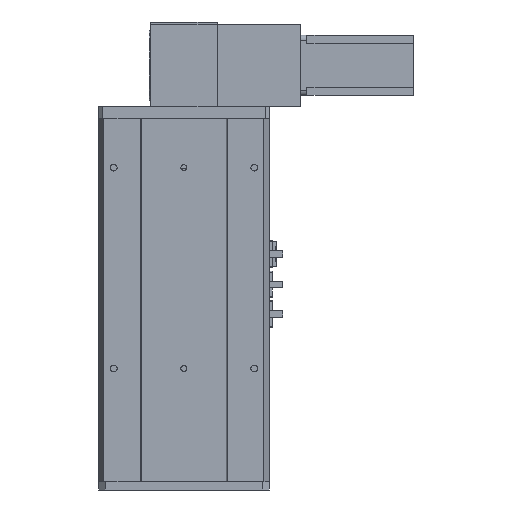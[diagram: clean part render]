
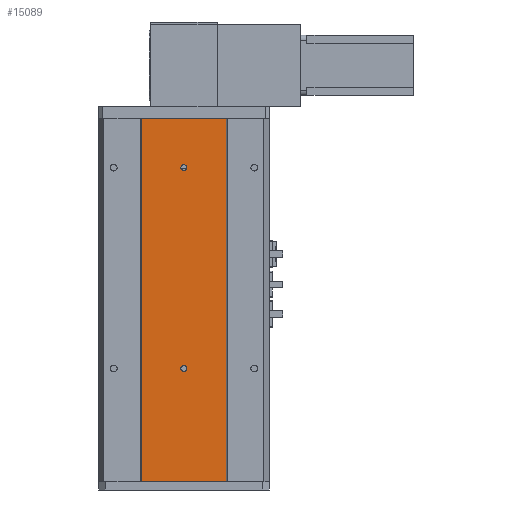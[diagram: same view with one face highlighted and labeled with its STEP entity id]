
A CAD part, front view. The second image highlights one B-rep face of the part: STEP entity #15089.
In plain terms, the highlighted planar face has unit normal (0, -1, 0).
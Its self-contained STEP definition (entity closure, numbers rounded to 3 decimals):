
#454 = CARTESIAN_POINT ( 'NONE',  ( 126.916, 2.57, 0. ) ) ;
#1677 = EDGE_CURVE ( 'NONE', #5716, #6644, #6830, .T. ) ;
#1688 = EDGE_CURVE ( 'NONE', #4887, #5716, #11807, .T. ) ;
#2448 = VERTEX_POINT ( 'NONE', #16442 ) ;
#2755 = CIRCLE ( 'NONE', #17395, 3. ) ;
#3605 = DIRECTION ( 'NONE',  ( 0., 0., 1. ) ) ;
#4160 = VECTOR ( 'NONE', #3605, 1000. ) ;
#4180 = VECTOR ( 'NONE', #27043, 1000. ) ;
#4317 = DIRECTION ( 'NONE',  ( 0., 1., 0. ) ) ;
#4545 = CARTESIAN_POINT ( 'NONE',  ( 42.916, 2.57, 0. ) ) ;
#4887 = VERTEX_POINT ( 'NONE', #454 ) ;
#5151 = FACE_BOUND ( 'NONE', #8867, .T. ) ;
#5716 = VERTEX_POINT ( 'NONE', #18201 ) ;
#5878 = CARTESIAN_POINT ( 'NONE',  ( 85., 2.57, 313. ) ) ;
#6168 = LINE ( 'NONE', #14080, #4160 ) ;
#6186 = VECTOR ( 'NONE', #6469, 1000. ) ;
#6445 = CARTESIAN_POINT ( 'NONE',  ( 126.916, 2.57, 362. ) ) ;
#6469 = DIRECTION ( 'NONE',  ( -1., 0., 0. ) ) ;
#6644 = VERTEX_POINT ( 'NONE', #20457 ) ;
#6752 = EDGE_LOOP ( 'NONE', ( #14697, #10793, #15969, #14674 ) ) ;
#6830 = LINE ( 'NONE', #12764, #22951 ) ;
#7963 = DIRECTION ( 'NONE',  ( 0., 0., 1. ) ) ;
#7965 = CARTESIAN_POINT ( 'NONE',  ( 85., 2.57, 110. ) ) ;
#8258 = VERTEX_POINT ( 'NONE', #6445 ) ;
#8324 = CARTESIAN_POINT ( 'NONE',  ( 42.916, 2.57, 0. ) ) ;
#8429 = DIRECTION ( 'NONE',  ( 0., 1., 0. ) ) ;
#8867 = EDGE_LOOP ( 'NONE', ( #10481, #17916 ) ) ;
#9797 = LINE ( 'NONE', #24988, #4180 ) ;
#10473 = EDGE_LOOP ( 'NONE', ( #18624, #12670 ) ) ;
#10481 = ORIENTED_EDGE ( 'NONE', *, *, #26865, .T. ) ;
#10646 = VERTEX_POINT ( 'NONE', #7965 ) ;
#10793 = ORIENTED_EDGE ( 'NONE', *, *, #1677, .F. ) ;
#11757 = CARTESIAN_POINT ( 'NONE',  ( 85., 2.57, 313. ) ) ;
#11807 = LINE ( 'NONE', #4545, #6186 ) ;
#12159 = VERTEX_POINT ( 'NONE', #16207 ) ;
#12521 = CARTESIAN_POINT ( 'NONE',  ( 85., 2.57, 113. ) ) ;
#12670 = ORIENTED_EDGE ( 'NONE', *, *, #24081, .T. ) ;
#12764 = CARTESIAN_POINT ( 'NONE',  ( 42.916, 2.57, 0. ) ) ;
#13183 = AXIS2_PLACEMENT_3D ( 'NONE', #5878, #20572, #7963 ) ;
#13621 = VERTEX_POINT ( 'NONE', #22660 ) ;
#13856 = DIRECTION ( 'NONE',  ( 0., 0., 1. ) ) ;
#13950 = CIRCLE ( 'NONE', #24311, 3. ) ;
#14080 = CARTESIAN_POINT ( 'NONE',  ( 126.916, 2.57, 0. ) ) ;
#14663 = DIRECTION ( 'NONE',  ( 0., 0., 1. ) ) ;
#14674 = ORIENTED_EDGE ( 'NONE', *, *, #14888, .T. ) ;
#14697 = ORIENTED_EDGE ( 'NONE', *, *, #27218, .T. ) ;
#14888 = EDGE_CURVE ( 'NONE', #4887, #8258, #6168, .T. ) ;
#15089 = ADVANCED_FACE ( 'NONE', ( #21923, #5151, #15734 ), #16859, .F. ) ;
#15734 = FACE_OUTER_BOUND ( 'NONE', #6752, .T. ) ;
#15786 = CIRCLE ( 'NONE', #16823, 3. ) ;
#15969 = ORIENTED_EDGE ( 'NONE', *, *, #1688, .F. ) ;
#16034 = EDGE_CURVE ( 'NONE', #2448, #10646, #2755, .T. ) ;
#16092 = DIRECTION ( 'NONE',  ( 0., 0., 1. ) ) ;
#16207 = CARTESIAN_POINT ( 'NONE',  ( 85., 2.57, 316. ) ) ;
#16442 = CARTESIAN_POINT ( 'NONE',  ( 85., 2.57, 116. ) ) ;
#16823 = AXIS2_PLACEMENT_3D ( 'NONE', #16998, #4317, #19059 ) ;
#16859 = PLANE ( 'NONE',  #17896 ) ;
#16998 = CARTESIAN_POINT ( 'NONE',  ( 85., 2.57, 113. ) ) ;
#17395 = AXIS2_PLACEMENT_3D ( 'NONE', #12521, #27037, #14663 ) ;
#17830 = CIRCLE ( 'NONE', #13183, 3. ) ;
#17896 = AXIS2_PLACEMENT_3D ( 'NONE', #8324, #8429, #23112 ) ;
#17916 = ORIENTED_EDGE ( 'NONE', *, *, #16034, .T. ) ;
#18201 = CARTESIAN_POINT ( 'NONE',  ( 42.916, 2.57, 0. ) ) ;
#18624 = ORIENTED_EDGE ( 'NONE', *, *, #22730, .T. ) ;
#19059 = DIRECTION ( 'NONE',  ( 0., 0., 1. ) ) ;
#20457 = CARTESIAN_POINT ( 'NONE',  ( 42.916, 2.57, 362. ) ) ;
#20572 = DIRECTION ( 'NONE',  ( 0., 1., 0. ) ) ;
#21923 = FACE_BOUND ( 'NONE', #10473, .T. ) ;
#22660 = CARTESIAN_POINT ( 'NONE',  ( 85., 2.57, 310. ) ) ;
#22730 = EDGE_CURVE ( 'NONE', #13621, #12159, #13950, .T. ) ;
#22951 = VECTOR ( 'NONE', #16092, 1000. ) ;
#23112 = DIRECTION ( 'NONE',  ( 0., 0., 1. ) ) ;
#24081 = EDGE_CURVE ( 'NONE', #12159, #13621, #17830, .T. ) ;
#24311 = AXIS2_PLACEMENT_3D ( 'NONE', #11757, #26267, #13856 ) ;
#24988 = CARTESIAN_POINT ( 'NONE',  ( 42.916, 2.57, 362. ) ) ;
#26267 = DIRECTION ( 'NONE',  ( 0., 1., 0. ) ) ;
#26865 = EDGE_CURVE ( 'NONE', #10646, #2448, #15786, .T. ) ;
#27037 = DIRECTION ( 'NONE',  ( 0., 1., 0. ) ) ;
#27043 = DIRECTION ( 'NONE',  ( -1., 0., 0. ) ) ;
#27218 = EDGE_CURVE ( 'NONE', #8258, #6644, #9797, .T. ) ;
